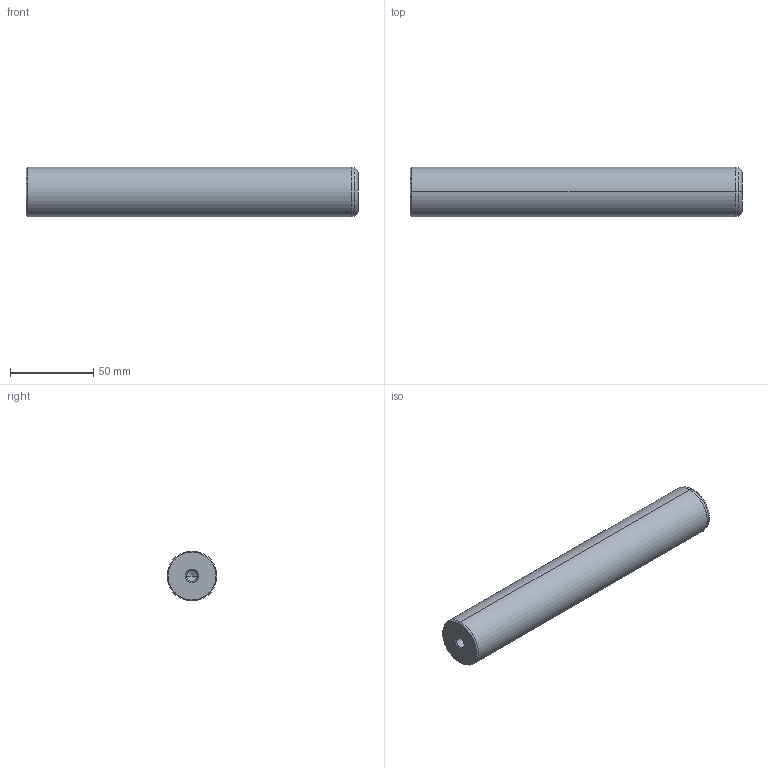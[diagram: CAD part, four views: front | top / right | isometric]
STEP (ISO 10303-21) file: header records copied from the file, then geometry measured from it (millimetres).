
FILE_DESCRIPTION(('CATIA V5 STEP Exchange'),'2;1');
FILE_NAME('C:\Users\Utente\Desktop\IO LAVORO\3D X SITO CF\X SITO\720\720-30x200.stp','2021-01-01T12:32:02+00:00',('none'),('none'),'CATIA Version 5 Release 20 GA (IN-10)','CATIA V5 STEP AP203','none');
FILE_SCHEMA(('CONFIG_CONTROL_DESIGN'));
Length unit declared in the file: millimetre
Products named in the file (1): 720-30x200
Bounding box: 200 x 30 x 30 mm (x, y, z)
Volume: 139340.8 mm3; surface area: 21060.3 mm2
Topology: 1 solids, 1 shells, 22 faces, 56 edges, 34 vertices
Faces by surface type: cone 12, cylinder 6, plane 2, torus 2
Entity records: 755 total; most frequent: CARTESIAN_POINT 216, ORIENTED_EDGE 104, DIRECTION 89, EDGE_CURVE 52, AXIS2_PLACEMENT_3D 50, VERTEX_POINT 34, CIRCLE 27, EDGE_LOOP 24
